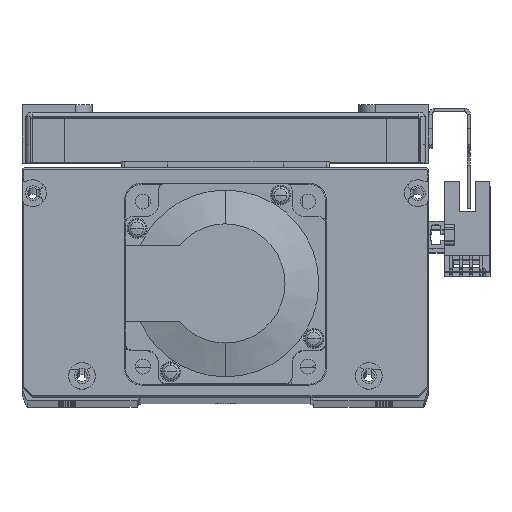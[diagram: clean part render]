
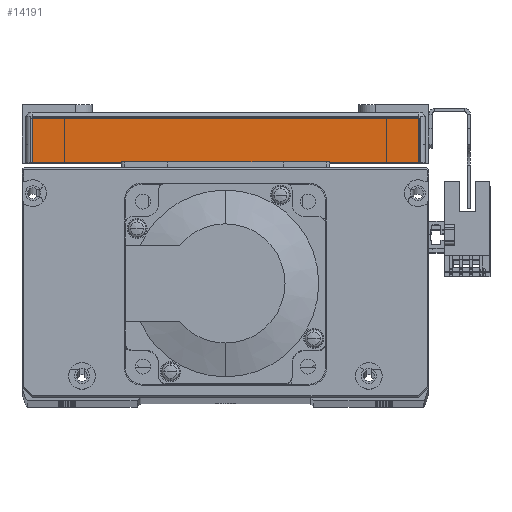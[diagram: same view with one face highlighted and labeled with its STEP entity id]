
A CAD part, top view. The second image highlights one B-rep face of the part: STEP entity #14191.
In plain terms, the highlighted planar face has unit normal (0, 0, 1) as drawn and (1, 0, 0) by its records, which use the part's own axes.
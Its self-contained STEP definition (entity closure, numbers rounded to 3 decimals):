
#346 = FACE_OUTER_BOUND ( 'NONE', #19222, .T. ) ;
#5933 = VERTEX_POINT ( 'NONE', #16924 ) ;
#5940 = VERTEX_POINT ( 'NONE', #16923 ) ;
#5952 = VERTEX_POINT ( 'NONE', #16942 ) ;
#5954 = VERTEX_POINT ( 'NONE', #16949 ) ;
#8189 = CARTESIAN_POINT ( 'NONE',  ( 82.5, 15., -60. ) ) ;
#8190 = DIRECTION ( 'NONE',  ( -1., 0., 0. ) ) ;
#8209 = PLANE ( 'NONE',  #22843 ) ;
#8214 = DIRECTION ( 'NONE',  ( 0., 0., 1. ) ) ;
#14191 = ADVANCED_FACE ( 'NONE', ( #346 ), #8209, .F. ) ;
#16923 = CARTESIAN_POINT ( 'NONE',  ( 82.5, 14., 58. ) ) ;
#16924 = CARTESIAN_POINT ( 'NONE',  ( 82.5, 14., -58. ) ) ;
#16942 = CARTESIAN_POINT ( 'NONE',  ( 82.5, 0., -58. ) ) ;
#16949 = CARTESIAN_POINT ( 'NONE',  ( 82.5, 0., 58. ) ) ;
#19222 = EDGE_LOOP ( 'NONE', ( #26846, #26863, #26845, #26840 ) ) ;
#22843 = AXIS2_PLACEMENT_3D ( 'NONE', #8189, #8190, #8214 ) ;
#26840 = ORIENTED_EDGE ( 'NONE', *, *, #32734, .T. ) ;
#26845 = ORIENTED_EDGE ( 'NONE', *, *, #32799, .T. ) ;
#26846 = ORIENTED_EDGE ( 'NONE', *, *, #32749, .T. ) ;
#26863 = ORIENTED_EDGE ( 'NONE', *, *, #32706, .T. ) ;
#32706 = EDGE_CURVE ( 'NONE', #5933, #5940, #34505, .T. ) ;
#32734 = EDGE_CURVE ( 'NONE', #5954, #5952, #34491, .T. ) ;
#32749 = EDGE_CURVE ( 'NONE', #5952, #5933, #34556, .T. ) ;
#32799 = EDGE_CURVE ( 'NONE', #5940, #5954, #34620, .T. ) ;
#34491 = LINE ( 'NONE', #35600, #34513 ) ;
#34505 = LINE ( 'NONE', #35535, #34525 ) ;
#34513 = VECTOR ( 'NONE', #35593, 1000. ) ;
#34525 = VECTOR ( 'NONE', #35522, 1000. ) ;
#34556 = LINE ( 'NONE', #35632, #34564 ) ;
#34564 = VECTOR ( 'NONE', #35635, 1000. ) ;
#34620 = LINE ( 'NONE', #35726, #34662 ) ;
#34662 = VECTOR ( 'NONE', #35742, 1000. ) ;
#35522 = DIRECTION ( 'NONE',  ( 0., 0., 1. ) ) ;
#35535 = CARTESIAN_POINT ( 'NONE',  ( 82.5, 14., 58. ) ) ;
#35593 = DIRECTION ( 'NONE',  ( 0., 0., -1. ) ) ;
#35600 = CARTESIAN_POINT ( 'NONE',  ( 82.5, 0., -60. ) ) ;
#35632 = CARTESIAN_POINT ( 'NONE',  ( 82.5, 15., -58. ) ) ;
#35635 = DIRECTION ( 'NONE',  ( 0., 1., 0. ) ) ;
#35726 = CARTESIAN_POINT ( 'NONE',  ( 82.5, 15., 58. ) ) ;
#35742 = DIRECTION ( 'NONE',  ( 0., -1., 0. ) ) ;
